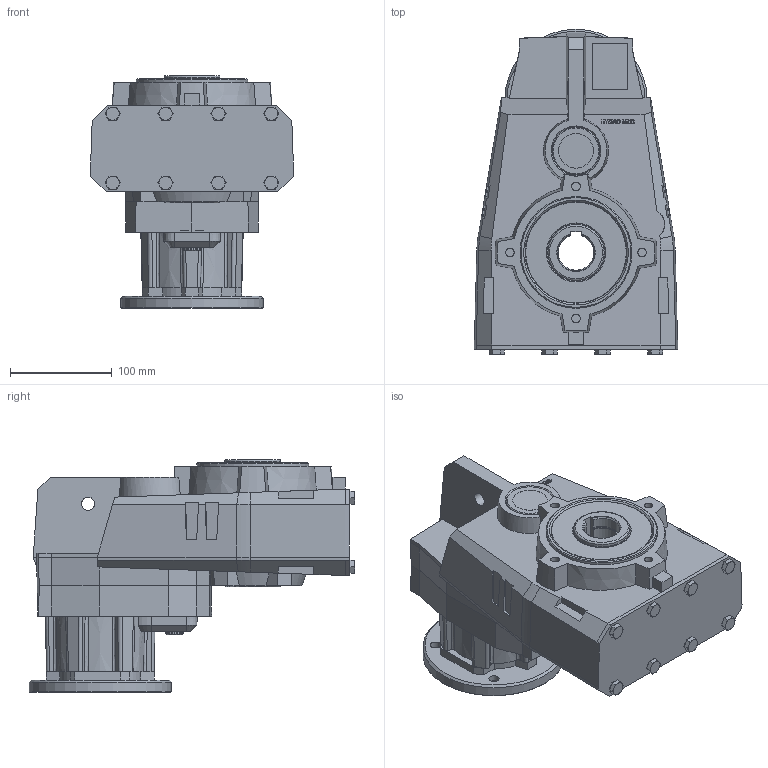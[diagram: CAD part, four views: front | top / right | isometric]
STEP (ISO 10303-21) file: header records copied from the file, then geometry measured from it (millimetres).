
FILE_DESCRIPTION( ( 'Unknown' ), '1' );
FILE_NAME( 'E:/services/configuratordownloads/customers/HYDROMEC/FLACH/download/37B6239F71FAE5D07B7EF96AC11D6438/STEP/37B6239F71FAE5D07B7EF96AC11D6438.3d.stp', 'Unknown', ( 'Unknown' ), ( 'Unknown' ), 'PSStep 10.1', 'Unknown', ' ' );
FILE_SCHEMA( ( 'AUTOMOTIVE_DESIGN { 1 0 10303 214 1 1 1 1 }' ) );
Length unit declared in the file: millimetre
Products named in the file (10): F508800_ST
Bounding box: 200 x 320.5 x 229 mm (x, y, z)
Volume: 5443894 mm3; surface area: 312564.8 mm2
Topology: 10 solids, 42 shells, 891 faces, 2090 edges, 1347 vertices
Faces by surface type: plane 552, cone 142, cylinder 136, torus 37, bspline 14, extrusion 10
Full cylindrical faces by diameter (mm): 6 x1, 6.647 x40, 8 x8, 8.376 x8, 9 x8, 10 x4, 11.6 x8, 13 x9, 13.5 x1, 18 x1, 19 x1, 21 x1, 34 x1, 45 x1, 55 x2, 62 x1, 93.5 x1, 95 x1, 110 x1, 140 x1
Entity records: 32315 total; most frequent: CARTESIAN_POINT 6093, DIRECTION 3740, ORIENTED_EDGE 3664, EDGE_CURVE 1832, AXIS2_PLACEMENT_3D 1363, VERTEX_POINT 1282, EDGE_LOOP 1176, FACE_OUTER_BOUND 1029
